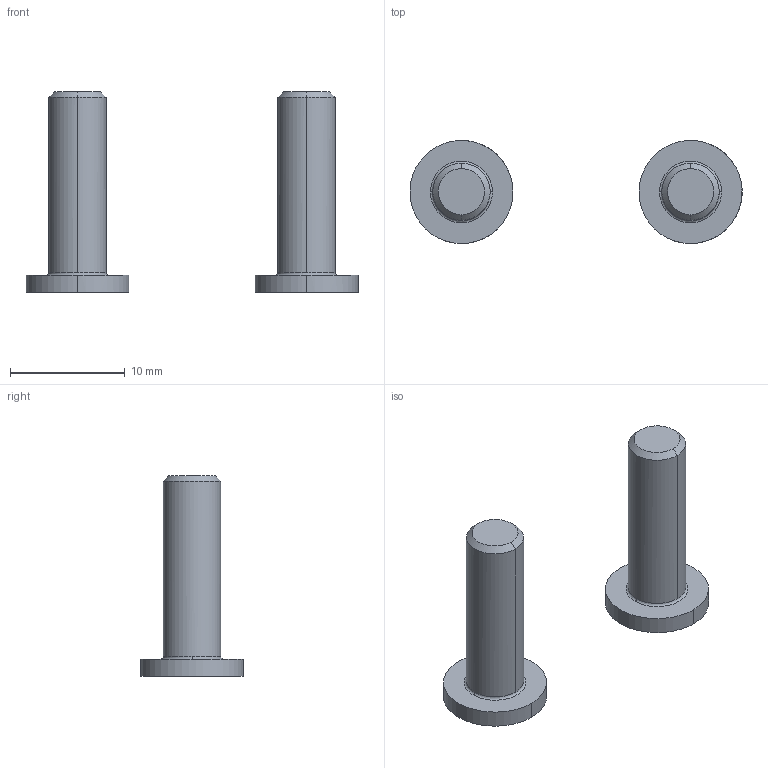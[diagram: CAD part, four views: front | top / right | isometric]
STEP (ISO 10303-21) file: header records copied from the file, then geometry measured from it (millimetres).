
FILE_DESCRIPTION(/* description */ (''),/* implementation_level */ '2;1');
FILE_NAME(/* name */ '7.x-cart#7.4#CBSS5-16',/* time_stamp */ '2014-12-01T20:17:29+01:00',/* author */ (''),/* organization */ (''),/* preprocessor_version */ 'ST-DEVELOPER v14',/* originating_system */ '',/* authorisation */ '');
FILE_SCHEMA (('AUTOMOTIVE_DESIGN'));
Length unit declared in the file: millimetre
Products named in the file (2): Document; screw DIN7984-like, low, M5x16
Assembly tree (2 placements, depth 2):
  Document
    screw DIN7984-like, low, M5x16  x2
Bounding box: 28.98 x 9 x 17.5 mm (x, y, z)
Volume: 767 mm3; surface area: 894.2 mm2
Topology: 2 solids, 2 shells, 50 faces, 118 edges, 72 vertices
Faces by surface type: plane 30, bspline 20
Entity records: 1588 total; most frequent: CARTESIAN_POINT 778, B_SPLINE_CURVE_WITH_KNOTS 129, ORIENTED_EDGE 114, PCURVE 114, DEFINITIONAL_REPRESENTATION 114, SURFACE_CURVE 57, EDGE_CURVE 57, VERTEX_POINT 36
